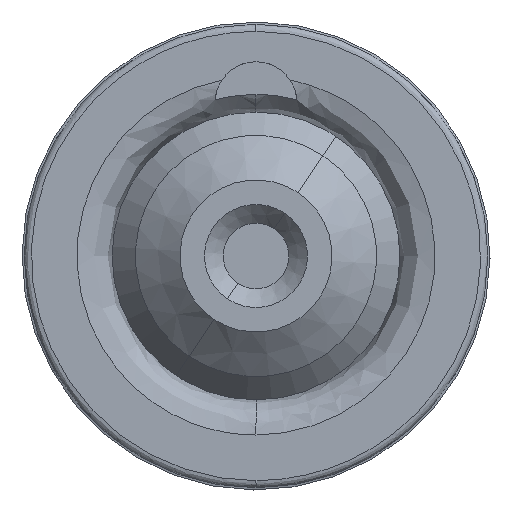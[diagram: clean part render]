
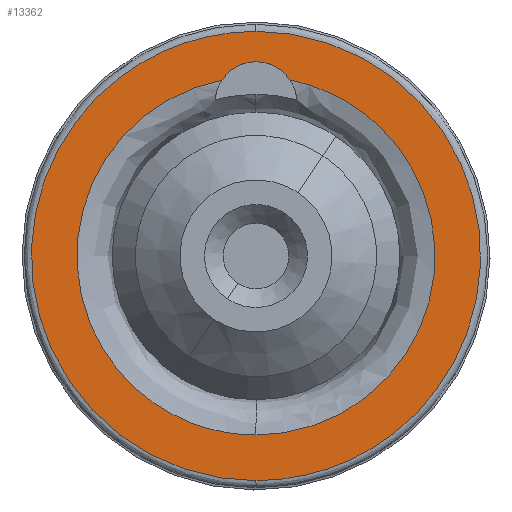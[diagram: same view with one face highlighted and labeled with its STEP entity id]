
A CAD part, left-side view. The second image highlights one B-rep face of the part: STEP entity #13362.
In plain terms, the highlighted planar face has unit normal (-1, 0, 0).
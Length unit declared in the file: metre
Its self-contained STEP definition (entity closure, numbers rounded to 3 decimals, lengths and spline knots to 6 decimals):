
#406 = CARTESIAN_POINT ( 'NONE',  ( 0., -0.007475, 0.00244 ) ) ;
#630 = CARTESIAN_POINT ( 'NONE',  ( 0., -0.000732, 0.003754 ) ) ;
#1148 = CARTESIAN_POINT ( 'NONE',  ( 0., 0.000732, 0.003754 ) ) ;
#1468 = EDGE_CURVE ( 'NONE', #9316, #12405, #9916, .T. ) ;
#1682 = EDGE_LOOP ( 'NONE', ( #8916, #16392 ) ) ;
#1758 = EDGE_CURVE ( 'NONE', #16886, #15254, #3184, .T. ) ;
#2315 = VERTEX_POINT ( 'NONE', #9519 ) ;
#2523 = CARTESIAN_POINT ( 'NONE',  ( 0., -0.0096, 0.0048 ) ) ;
#2926 = CARTESIAN_POINT ( 'NONE',  ( 0., 0., -0.003825 ) ) ;
#3184 = CIRCLE ( 'NONE', #10192, 0.000875 ) ;
#3515 = CARTESIAN_POINT ( 'NONE',  ( 0., 0.000732, 0.003754 ) ) ;
#3516 = EDGE_CURVE ( 'NONE', #15254, #16537, #7824, .T. ) ;
#5487 = CARTESIAN_POINT ( 'NONE',  ( 0., 0., -0.003825 ) ) ;
#5799 = DIRECTION ( 'NONE',  ( -1., 0., 0. ) ) ;
#6374 = CARTESIAN_POINT ( 'NONE',  ( 0., -0.004858, 0.004858 ) ) ;
#7824 = CIRCLE ( 'NONE', #21566, 0.000875 ) ;
#7908 = CARTESIAN_POINT ( 'NONE',  ( 0., -0.0096, -0.0048 ) ) ;
#8767 = CARTESIAN_POINT ( 'NONE',  ( 0., 0., 0.00415 ) ) ;
#8867 =( BOUNDED_CURVE ( )  B_SPLINE_CURVE ( 3, ( #9125, #19620, #12703, #9201 ),
 .UNSPECIFIED., .F., .F. ) 
 B_SPLINE_CURVE_WITH_KNOTS ( ( 4, 4 ),
 ( 0., 1. ),
 .UNSPECIFIED. ) 
 CURVE ( )  GEOMETRIC_REPRESENTATION_ITEM ( )  RATIONAL_B_SPLINE_CURVE ( ( 0.957, 0.319, 0.319, 0.957 ) ) 
 REPRESENTATION_ITEM ( '' )  );
#8916 = ORIENTED_EDGE ( 'NONE', *, *, #1468, .F. ) ;
#9125 = CARTESIAN_POINT ( 'NONE',  ( 0., 0., -0.0048 ) ) ;
#9201 = CARTESIAN_POINT ( 'NONE',  ( 0., 0., 0.0048 ) ) ;
#9316 = VERTEX_POINT ( 'NONE', #12939 ) ;
#9519 = CARTESIAN_POINT ( 'NONE',  ( 0., 0., -0.003825 ) ) ;
#9760 = CARTESIAN_POINT ( 'NONE',  ( 0., 0., 0.0048 ) ) ;
#9916 =( BOUNDED_CURVE ( )  B_SPLINE_CURVE ( 3, ( #9760, #2523, #7908, #20229 ),
 .UNSPECIFIED., .F., .F. ) 
 B_SPLINE_CURVE_WITH_KNOTS ( ( 4, 4 ),
 ( 0., 1. ),
 .UNSPECIFIED. ) 
 CURVE ( )  GEOMETRIC_REPRESENTATION_ITEM ( )  RATIONAL_B_SPLINE_CURVE ( ( 0.957, 0.319, 0.319, 0.957 ) ) 
 REPRESENTATION_ITEM ( '' )  );
#10192 = AXIS2_PLACEMENT_3D ( 'NONE', #12838, #5799, #11032 ) ;
#10222 = EDGE_CURVE ( 'NONE', #2315, #16886, #10632, .T. ) ;
#10335 = CARTESIAN_POINT ( 'NONE',  ( 0., -0.000732, 0.003754 ) ) ;
#10632 =( BOUNDED_CURVE ( )  B_SPLINE_CURVE ( 3, ( #5487, #17813, #406, #630 ),
 .UNSPECIFIED., .F., .F. ) 
 B_SPLINE_CURVE_WITH_KNOTS ( ( 4, 4 ),
 ( 0., 1. ),
 .UNSPECIFIED. ) 
 CURVE ( )  GEOMETRIC_REPRESENTATION_ITEM ( )  RATIONAL_B_SPLINE_CURVE ( ( 0.957, 0.375, 0.324, 0.803 ) ) 
 REPRESENTATION_ITEM ( '' )  );
#11032 = DIRECTION ( 'NONE',  ( 0., 0., 1. ) ) ;
#12364 = EDGE_CURVE ( 'NONE', #16537, #2315, #18778, .T. ) ;
#12405 = VERTEX_POINT ( 'NONE', #15992 ) ;
#12703 = CARTESIAN_POINT ( 'NONE',  ( 0., 0.0096, 0.0048 ) ) ;
#12838 = CARTESIAN_POINT ( 'NONE',  ( 0., 0., 0.003275 ) ) ;
#12939 = CARTESIAN_POINT ( 'NONE',  ( 0., 0., 0.0048 ) ) ;
#13362 = ADVANCED_FACE ( 'NONE', ( #16576, #20688 ), #16947, .F. ) ;
#13488 = CARTESIAN_POINT ( 'NONE',  ( 0., 0.005931, -0.003825 ) ) ;
#13584 = AXIS2_PLACEMENT_3D ( 'NONE', #6374, #22751, #13998 ) ;
#13998 = DIRECTION ( 'NONE',  ( 0., 0., -1. ) ) ;
#14259 = CARTESIAN_POINT ( 'NONE',  ( 0., 0., 0.003275 ) ) ;
#14414 = DIRECTION ( 'NONE',  ( -1., 0., 0. ) ) ;
#14649 = ORIENTED_EDGE ( 'NONE', *, *, #1758, .F. ) ;
#15254 = VERTEX_POINT ( 'NONE', #8767 ) ;
#15992 = CARTESIAN_POINT ( 'NONE',  ( 0., 0., -0.0048 ) ) ;
#16178 = DIRECTION ( 'NONE',  ( 0., 0., 1. ) ) ;
#16392 = ORIENTED_EDGE ( 'NONE', *, *, #21785, .F. ) ;
#16537 = VERTEX_POINT ( 'NONE', #3515 ) ;
#16576 = FACE_BOUND ( 'NONE', #19308, .T. ) ;
#16886 = VERTEX_POINT ( 'NONE', #10335 ) ;
#16947 = PLANE ( 'NONE',  #13584 ) ;
#17813 = CARTESIAN_POINT ( 'NONE',  ( 0., -0.005931, -0.003825 ) ) ;
#18778 =( BOUNDED_CURVE ( )  B_SPLINE_CURVE ( 3, ( #1148, #22306, #13488, #2926 ),
 .UNSPECIFIED., .F., .F. ) 
 B_SPLINE_CURVE_WITH_KNOTS ( ( 4, 4 ),
 ( 0., 1. ),
 .UNSPECIFIED. ) 
 CURVE ( )  GEOMETRIC_REPRESENTATION_ITEM ( )  RATIONAL_B_SPLINE_CURVE ( ( 0.803, 0.324, 0.375, 0.957 ) ) 
 REPRESENTATION_ITEM ( '' )  );
#18826 = ORIENTED_EDGE ( 'NONE', *, *, #12364, .F. ) ;
#19308 = EDGE_LOOP ( 'NONE', ( #18826, #22011, #14649, #20055 ) ) ;
#19620 = CARTESIAN_POINT ( 'NONE',  ( 0., 0.0096, -0.0048 ) ) ;
#20055 = ORIENTED_EDGE ( 'NONE', *, *, #10222, .F. ) ;
#20229 = CARTESIAN_POINT ( 'NONE',  ( 0., 0., -0.0048 ) ) ;
#20688 = FACE_OUTER_BOUND ( 'NONE', #1682, .T. ) ;
#21566 = AXIS2_PLACEMENT_3D ( 'NONE', #14259, #14414, #16178 ) ;
#21785 = EDGE_CURVE ( 'NONE', #12405, #9316, #8867, .T. ) ;
#22011 = ORIENTED_EDGE ( 'NONE', *, *, #3516, .F. ) ;
#22306 = CARTESIAN_POINT ( 'NONE',  ( 0., 0.007475, 0.00244 ) ) ;
#22751 = DIRECTION ( 'NONE',  ( 1., 0., 0. ) ) ;
